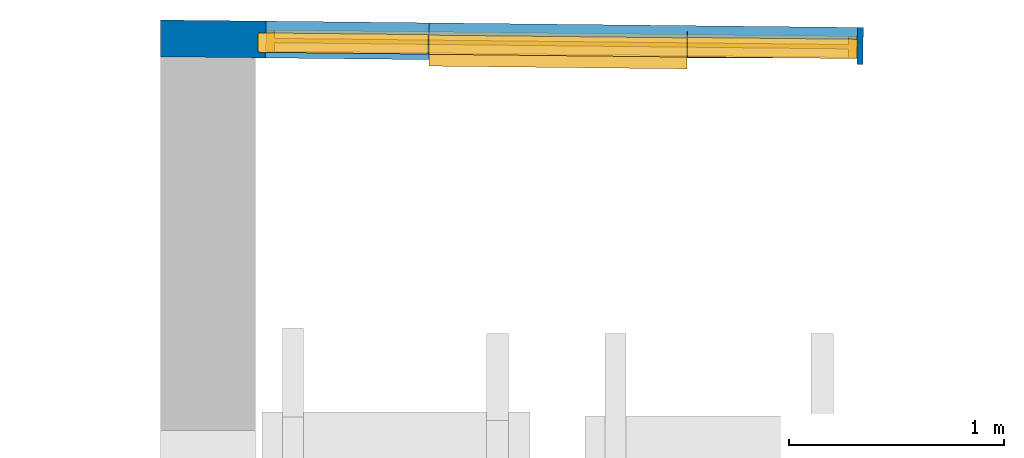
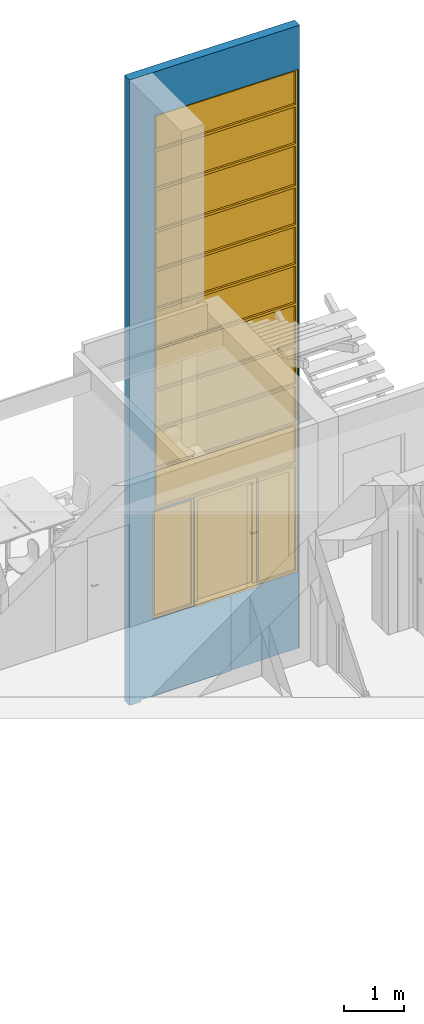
"""IFC2X3 building model written with IfcOpenShell, lengths in millimetres."""

from ifc_helpers import new_model, entity, si_unit, converted_unit, derived_unit, direction, frame, frame_2d, origin, origin_2d_with_axis, place, context, subcontext, project, spatial, polyline, rectangle, outline, extrude, faceted_brep, source, transform, mapped, material, material_list, type_object, type_shapes, element, fill, save


model = new_model("IFC2X3")

# Units and contexts
model_context = context("Model", 3, precision=0.01, world=origin(), true_north=direction((6.12303176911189e-17, 1.0)))
context_of_model = context(None, 3, precision=0.01, world=origin(), true_north=direction((6.12303176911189e-17, 1.0)))
body_context = subcontext(model_context, "Body", "Model", "MODEL_VIEW")
ifc_project = project(units=[si_unit("LENGTHUNIT", "METRE", prefix="MILLI"), si_unit("AREAUNIT", "SQUARE_METRE"), si_unit("VOLUMEUNIT", "CUBIC_METRE"), converted_unit("PLANEANGLEUNIT", "DEGREE", entity("IfcRatioMeasure", 0.0174532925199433), si_unit("PLANEANGLEUNIT", "RADIAN"), dimensions=[0, 0, 0, 0, 0, 0, 0]), si_unit("MASSUNIT", "GRAM", prefix="KILO"), derived_unit("MASSDENSITYUNIT", [(si_unit("MASSUNIT", "GRAM", prefix="KILO"), 1), (si_unit("LENGTHUNIT", "METRE"), -3)]), si_unit("TIMEUNIT", "SECOND"), si_unit("FREQUENCYUNIT", "HERTZ"), si_unit("THERMODYNAMICTEMPERATUREUNIT", "DEGREE_CELSIUS"), derived_unit("THERMALTRANSMITTANCEUNIT", [(si_unit("MASSUNIT", "GRAM", prefix="KILO"), 1), (si_unit("THERMODYNAMICTEMPERATUREUNIT", "KELVIN"), -1), (si_unit("TIMEUNIT", "SECOND"), -3)]), derived_unit("VOLUMETRICFLOWRATEUNIT", [(si_unit("LENGTHUNIT", "METRE"), 3), (si_unit("TIMEUNIT", "SECOND"), -1)]), si_unit("ELECTRICCURRENTUNIT", "AMPERE"), si_unit("ELECTRICVOLTAGEUNIT", "VOLT"), si_unit("POWERUNIT", "WATT"), si_unit("FORCEUNIT", "NEWTON", prefix="KILO"), si_unit("ILLUMINANCEUNIT", "LUX"), si_unit("LUMINOUSFLUXUNIT", "LUMEN"), si_unit("LUMINOUSINTENSITYUNIT", "CANDELA"), derived_unit("USERDEFINED", [(si_unit("MASSUNIT", "GRAM", prefix="KILO"), -1), (si_unit("LENGTHUNIT", "METRE"), -2), (si_unit("TIMEUNIT", "SECOND"), 3), (si_unit("LUMINOUSFLUXUNIT", "LUMEN"), 1)]), derived_unit("LINEARVELOCITYUNIT", [(si_unit("LENGTHUNIT", "METRE"), 1), (si_unit("TIMEUNIT", "SECOND"), -1)]), si_unit("PRESSUREUNIT", "PASCAL"), derived_unit("USERDEFINED", [(si_unit("LENGTHUNIT", "METRE"), -2), (si_unit("MASSUNIT", "GRAM", prefix="KILO"), 1), (si_unit("TIMEUNIT", "SECOND"), -2)])], contexts=[model_context, context_of_model])

# Site, building, storey
site_placement = place(None, frame((121442.264707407, 135347.995453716, -1800.0)))
site = spatial("IfcSite", under=ifc_project, at=site_placement, Name="Surface", CompositionType="ELEMENT")
building_placement = place(site_placement, origin())
building = spatial("IfcBuilding", under=site, at=building_placement, CompositionType="ELEMENT")
storey_1_placement = place(building_placement, frame((0.0, 0.0, 5125.0)))
storey_1 = spatial("IfcBuildingStorey", under=building, at=storey_1_placement, Name="2 korrus", CompositionType="ELEMENT", Elevation=5125.00000000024)

# Wall, openings
ifc_material_1 = material(Name="NCS S 2570-R Syvä punainen, matta, ruisku")
ifc_material_2 = material(Name="__Betoonelement")
ifc_material_list = material_list([ifc_material_1, ifc_material_2])
wall_type = type_object("IfcWallType", Name="Basic Wall:17_Betoon", PredefinedType="NOTDEFINED")
wall_placement = place(storey_1_placement, frame((-85759.4810968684, -112857.408717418, -6615.0), z_axis=(0.0, 0.0, 1.0), x_axis=(0.999942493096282, -0.0107242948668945, 0.0)))
wall = element("IfcWall", 1, at=wall_placement, inside=storey_1, type_object=wall_type, material=ifc_material_list, Name="Basic Wall:17_Betoon", ObjectType="Basic Wall:17_Betoon", context=body_context, shape_type="Brep", body=[
    faceted_brep([(2449.53318504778, -85.5000000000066, 3804.99360295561), (2449.53318504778, -85.5000000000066, 1605.0), (2450.78318504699, -85.4999999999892, 1605.0), (2450.78318504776, -85.5000000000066, 3804.99360295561), (3268.54498505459, 85.4999999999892, 0.0), (0.0, 85.5000000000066, 0.0), (0.0, 85.5000000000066, 12757.4620923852), (3268.54498505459, 85.4999999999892, 12757.4620923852), (490.220336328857, 85.4999999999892, 11864.9936029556), (490.220336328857, 85.4999999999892, 3804.99360295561), (1249.53318504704, 85.5000000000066, 3804.99360295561), (1249.53318504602, 85.4999999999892, 1605.0), (2449.53318504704, 85.5000000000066, 1605.0), (2449.53318504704, 85.5000000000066, 3804.99360295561), (2450.78318504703, 85.5000000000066, 3804.99360295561), (2450.78318504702, 85.5000000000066, 1605.0), (3240.78318504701, 85.4999999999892, 1605.0), (3240.78318504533, 85.4999999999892, 3805.0), (3240.22033633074, 85.5000000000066, 3804.99360295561), (3240.22033633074, 85.5000000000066, 11864.9936029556), (454.533185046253, 85.5000000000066, 3800.0), (454.533185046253, 85.5000000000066, 1600.0), (1244.53318504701, 85.5000000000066, 1600.0), (1244.53318504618, 85.4999999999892, 3800.0), (3267.94340165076, 0.0, 0.0), (225.883358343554, 0.0, 0.0), (225.044014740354, -85.5000000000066, 0.0), (1.83395988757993, -85.4999999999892, 0.0), (1.83395988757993, -85.4999999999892, 12757.4620923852), (3267.34181824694, -85.5000000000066, 12757.4620923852), (490.220336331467, -85.5000000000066, 11864.9936029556), (490.220336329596, -85.5000000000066, 3804.99360295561), (3240.22033633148, -85.5000000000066, 11864.9936029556), (3240.22033633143, 85.4999999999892, 3805.0), (3240.2203363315, -85.5000000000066, 3804.99360295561), (2449.53318504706, -64.6491256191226, 1605.0), (1249.53318504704, -85.5000000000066, 1605.0), (1951.24200368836, -85.5000000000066, 1605.0), (1951.07571434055, -69.9950379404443, 1605.0), (1249.53318504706, -85.5000000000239, 3804.99360295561), (1.83395988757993, -85.4999999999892, 1119.42804433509), (1.83395988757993, -85.4999999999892, 9470.05607262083), (3267.34181824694, -85.5000000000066, 38.7500000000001), (3267.94340165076, 0.0, 38.7500000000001), (2450.78318504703, -64.6357194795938, 1605.0), (3240.78318504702, -85.5000000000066, 3805.0), (3240.22033633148, -85.5000000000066, 3805.0), (3240.78318504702, -56.1630392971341, 1605.0), (3240.78318504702, -85.5000000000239, 1605.0), (3263.64629603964, -55.9178344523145, 1605.0), (3263.64629603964, -55.9178344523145, 38.7499999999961), (3263.96356215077, -85.5000000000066, 38.7500000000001), (3263.96356215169, -85.5000000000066, 1605.0), (1951.07571434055, -69.9950379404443, 38.7499999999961), (1951.24200368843, -85.5000000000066, 38.7499999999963), (225.044014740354, -85.5000000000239, 38.7500000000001), (225.883358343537, 0.0, 38.7500000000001), (454.533185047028, -85.5000000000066, 1600.0), (454.533185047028, -85.5000000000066, 3800.0), (1244.53318504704, -85.5000000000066, 3800.0), (1244.53318504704, -85.5000000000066, 1600.0)], [[[0, 1, 2, 3]], [[4, 5, 6, 7], [8, 9, 10, 11, 12, 13, 14, 15, 16, 17, 18, 19], [20, 21, 22, 23]], [[5, 4, 24, 25, 26, 27]], [[28, 29, 7, 6]], [[8, 30, 31, 9]], [[30, 8, 19, 32]], [[32, 19, 33, 34]], [[13, 0, 3, 14]], [[1, 0, 13, 12, 35]], [[11, 36, 37, 38, 35, 12]], [[36, 11, 10, 39]], [[5, 27, 40, 41, 28, 6]], [[7, 29, 42, 43, 24, 4]], [[3, 2, 44, 15, 14]], [[17, 45, 46, 33]], [[45, 17, 16, 47, 48]], [[16, 15, 44, 47]], [[49, 50, 51, 52]], [[53, 38, 37, 54]], [[50, 49, 47, 44, 35, 38, 53]], [[47, 49, 52, 48]], [[55, 56, 43, 42, 51, 50, 53, 54]], [[43, 56, 25, 24]], [[56, 55, 26, 25]], [[57, 21, 20, 58]], [[58, 20, 23, 59]], [[59, 23, 22, 60]], [[21, 57, 60, 22]], [[35, 44, 2, 1]], [[31, 39, 10, 9]], [[29, 28, 41, 40, 27, 26, 55, 54, 37, 36, 39, 31, 30, 32, 46, 45, 48, 52, 51, 42], [57, 58, 59, 60]]]),
])
opening_1_placement = place(wall_placement, frame((1249.53318504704, -85.5, 1605.0)))
opening_1 = element("IfcOpeningElement", 2, at=opening_1_placement, cuts=wall, Name="Concept ExtSgl:1200 x 2200mm:1", ObjectType="Opening", context=body_context, shape_type="SweptSolid", body=[
    extrude(rectangle(XDim=2200.0, YDim=1200.0, at=frame_2d((1100.0, 600.0), x_axis=(-1.0, 0.0))), frame((0.0, 0.0, 0.0), z_axis=(0.0, 1.0, 0.0), x_axis=(0.0, 0.0, 1.0)), (0.0, 0.0, 1.0), 171.0),
])
opening_2_placement = place(wall_placement, frame((490.220336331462, -85.5000000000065, 3804.99360295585)))
opening_2 = element("IfcOpeningElement", 3, at=opening_2_placement, cuts=wall, Name="Family7:Family7:1", ObjectType="Opening", context=body_context, shape_type="SweptSolid", body=[
    extrude(rectangle(XDim=8060.0, YDim=2750.0, at=frame_2d((4030.0, 1375.0), x_axis=(1.0, 0.0))), frame((0.0, 0.0, 0.0), z_axis=(0.0, 1.0, 0.0), x_axis=(0.0, 0.0, 1.0)), (0.0, 0.0, 1.0), 171.0),
])
opening_3_placement = place(wall_placement, frame((454.533185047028, -85.5000000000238, 1600.0)))
opening_3 = element("IfcOpeningElement", 4, at=opening_3_placement, cuts=wall, Name="Family8:Family8:1", ObjectType="Opening", context=body_context, shape_type="SweptSolid", body=[
    extrude(rectangle(XDim=2200.0, YDim=790.0, at=frame_2d((1100.0, 395.000000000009), x_axis=(1.0, 0.0))), frame((0.0, 0.0, 0.0), z_axis=(0.0, 1.0, 0.0), x_axis=(0.0, 0.0, 1.0)), (0.0, 0.0, 1.0), 171.0),
])
opening_4_placement = place(wall_placement, frame((2450.78318504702, -85.5000000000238, 1605.0)))
opening_4 = element("IfcOpeningElement", 5, at=opening_4_placement, cuts=wall, Name="Family8:Family8:1", ObjectType="Opening", context=body_context, shape_type="SweptSolid", body=[
    extrude(rectangle(XDim=2200.0, YDim=790.0, at=frame_2d((1100.0, 395.0), x_axis=(1.0, 0.0))), frame((0.0, 0.0, 0.0), z_axis=(0.0, 1.0, 0.0), x_axis=(0.0, 0.0, 1.0)), (0.0, 0.0, 1.0), 171.0),
])

# Storey
storey_2_placement = place(building_placement, frame((0.0, 0.0, 1800.0)))
storey_2 = spatial("IfcBuildingStorey", under=building, at=storey_2_placement, Name="1 korrus", CompositionType="ELEMENT", Elevation=1800.00000000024)

# Door
ifc_material_3 = material(Name="Concept")
door_style = type_object("IfcDoorStyle", Name="1200 x 2200mm", ConstructionType="NOTDEFINED", OperationType="SINGLE_SWING_RIGHT", ParameterTakesPrecedence=False, Sizeable=False, material=ifc_material_3)
shared_shape_1 = source(origin(), body_context, "Body", "Brep", [
    faceted_brep([(1129.5, 146.0, 54.5000000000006), (1200.0, 146.0, 54.5000000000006), (1200.0, 57.0, 54.5000000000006), (1151.5, 57.0, 54.5000000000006), (1151.5, 104.0, 54.5000000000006), (1129.5, 104.0, 54.5000000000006), (1129.5, 146.0, 2129.49999999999), (70.5000000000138, 146.0, 2129.49999999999), (70.5000000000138, 146.0, 54.5000000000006), (0.0, 146.0, 54.5000000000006), (0.0, 146.0, 2200.0), (1200.0, 146.0, 2200.0), (1200.0, 57.0, 2200.0), (0.0, 57.0, 2200.0), (0.0, 57.0, 54.5000000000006), (48.5000000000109, 57.0, 54.5000000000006), (48.5000000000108, 57.0, 2151.5), (1151.5, 57.0, 2151.5), (1151.5, 104.0, 2151.5), (48.500000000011, 104.0, 2151.5), (48.500000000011, 104.0, 54.5000000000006), (70.5000000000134, 104.0, 54.5000000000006), (70.5000000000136, 104.0, 2129.49999999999), (1129.5, 104.0, 2129.49999999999)], [[[0, 1, 2, 3, 4, 5]], [[1, 0, 6, 7, 8, 9, 10, 11]], [[2, 1, 11, 12]], [[3, 2, 12, 13, 14, 15, 16, 17]], [[4, 3, 17, 18]], [[5, 4, 18, 19, 20, 21, 22, 23]], [[0, 5, 23, 6]], [[7, 22, 21, 8]], [[8, 21, 20, 15, 14, 9]], [[13, 10, 9, 14]], [[19, 16, 15, 20]], [[12, 11, 10, 13]], [[18, 17, 16, 19]], [[6, 23, 22, 7]]]),
    faceted_brep([(1200.0, 57.0, 0.0), (1200.0, 201.0, 0.0), (1200.0, 201.0, 38.5947221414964), (1200.0, 146.0, 54.5000000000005), (1200.0, 57.0, 54.5000000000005), (0.0, 57.0, 0.0), (0.0, 57.0, 54.5000000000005), (0.0, 146.0, 54.5000000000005), (0.0, 201.0, 38.5947221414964), (0.0, 201.0, 0.0)], [[[0, 1, 2, 3, 4]], [[5, 6, 7, 8, 9]], [[1, 0, 5, 9]], [[2, 1, 9, 8]], [[3, 2, 8, 7]], [[4, 3, 7, 6]], [[0, 4, 6, 5]]]),
    faceted_brep([(1148.5, 57.0, 58.5000000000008), (1148.5, 57.0, 2148.49999999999), (50.5749705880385, 57.0, 2148.49999999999), (50.5749705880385, 57.0, 58.5000000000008), (1148.5, 101.0, 58.5000000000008), (50.5749705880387, 101.0, 58.5000000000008), (50.5749705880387, 101.0, 2148.49999999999), (1148.5, 101.0, 2148.49999999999)], [[[0, 1, 2, 3]], [[4, 5, 6, 7]], [[1, 0, 4, 7]], [[2, 1, 7, 6]], [[3, 2, 6, 5]], [[0, 3, 5, 4]]]),
])
type_shapes(door_style, [shared_shape_1])
door_placement = place(opening_1_placement, frame((1200.0, 171.0, 0.0), z_axis=(0.0, 0.0, 1.0), x_axis=(-1.0, 0.0, 0.0)))
door = element("IfcDoor", 6, at=door_placement, inside=storey_2, type_object=door_style, material=ifc_material_3, Name="Concept ExtSgl:1200 x 2200mm", ObjectType="1200 x 2200mm", OverallHeight=2200.0, OverallWidth=1200.0, context=body_context, shape_type="MappedRepresentation", body=[
    mapped(shared_shape_1, transform((0.0, 0.0, 0.0), scale=1.0)),
])

fill(opening_1, door)

# Window
ifc_material_4 = material(Name="Glass")
window_style_1 = type_object("IfcWindowStyle", Name="Family7", ConstructionType="NOTDEFINED", OperationType="NOTDEFINED", ParameterTakesPrecedence=False, Sizeable=False, material=ifc_material_4)
shared_shape_2 = source(origin(), body_context, "Body", "SweptSolid", [
    extrude(rectangle(XDim=20.0, YDim=2670.0, at=origin_2d_with_axis()), frame((1375.0, 81.0, 7340.0), z_axis=(0.0, 0.0, 1.0), x_axis=(0.0, 1.0, 0.0)), (0.0, 0.0, 1.0), 679.999999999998),
    extrude(rectangle(XDim=20.0, YDim=2670.0, at=origin_2d_with_axis()), frame((1375.0, 81.0, 40.0), z_axis=(0.0, 0.0, 1.0), x_axis=(0.0, 1.0, 0.0)), (0.0, 0.0, 1.0), 750.000000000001),
    extrude(rectangle(XDim=20.0, YDim=2670.0, at=origin_2d_with_axis()), frame((1375.0, 81.0, 6540.0), z_axis=(0.0, 0.0, 1.0), x_axis=(0.0, 1.0, 0.0)), (0.0, 0.0, 1.0), 750.000000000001),
    extrude(rectangle(XDim=20.0, YDim=2670.0, at=origin_2d_with_axis()), frame((1375.0, 81.0, 5690.0), z_axis=(0.0, 0.0, 1.0), x_axis=(0.0, 1.0, 0.0)), (0.0, 0.0, 1.0), 800.0),
    extrude(rectangle(XDim=20.0, YDim=2670.0, at=origin_2d_with_axis()), frame((1375.0, 81.0, 4890.0), z_axis=(0.0, 0.0, 1.0), x_axis=(0.0, 1.0, 0.0)), (0.0, 0.0, 1.0), 750.000000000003),
    extrude(rectangle(XDim=20.0, YDim=2670.0, at=origin_2d_with_axis()), frame((1375.0, 81.0, 4090.0), z_axis=(0.0, 0.0, 1.0), x_axis=(0.0, 1.0, 0.0)), (0.0, 0.0, 1.0), 750.000000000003),
    extrude(rectangle(XDim=20.0, YDim=2670.0, at=origin_2d_with_axis()), frame((1375.0, 81.0, 3290.0), z_axis=(0.0, 0.0, 1.0), x_axis=(0.0, 1.0, 0.0)), (0.0, 0.0, 1.0), 750.000000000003),
    extrude(rectangle(XDim=20.0, YDim=2670.0, at=origin_2d_with_axis()), frame((1375.0, 81.0, 2440.0), z_axis=(0.0, 0.0, 1.0), x_axis=(0.0, 1.0, 0.0)), (0.0, 0.0, 1.0), 800.0),
    extrude(rectangle(XDim=20.0, YDim=2670.0, at=origin_2d_with_axis()), frame((1375.0, 81.0, 1640.0), z_axis=(0.0, 0.0, 1.0), x_axis=(0.0, 1.0, 0.0)), (0.0, 0.0, 1.0), 749.999999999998),
    extrude(rectangle(XDim=20.0, YDim=2670.0, at=origin_2d_with_axis()), frame((1375.0, 81.0, 840.0), z_axis=(0.0, 0.0, 1.0), x_axis=(0.0, 1.0, 0.0)), (0.0, 0.0, 1.0), 750.000000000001),
    extrude(outline(polyline([(-1375.0, -4030.0), (1375.0, -4030.0), (1375.0, 4030.0), (-1375.0, 4030.0), (-1375.0, -4030.0)]), holes=[polyline([(1335.0, 3990.0), (1335.0, 3240.0), (-1335.0, 3240.0), (-1335.0, 3990.0), (1335.0, 3990.0)]), polyline([(1335.0, 2440.0), (-1335.0, 2440.0), (-1335.0, 3190.0), (1335.0, 3190.0), (1335.0, 2440.0)]), polyline([(-1335.0, -3310.0), (1335.0, -3310.0), (1335.0, -3990.0), (-1335.0, -3990.0), (-1335.0, -3310.0)]), polyline([(1335.0, 1640.0), (-1335.0, 1640.0), (-1335.0, 2390.0), (1335.0, 2390.0), (1335.0, 1640.0)]), polyline([(1335.0, 1590.0), (1335.0, 790.0), (-1335.0, 790.0), (-1335.0, 1590.0), (1335.0, 1590.0)]), polyline([(1335.0, -10.0), (-1335.0, -10.0), (-1335.0, 740.0), (1335.0, 740.0), (1335.0, -10.0)]), polyline([(1335.0, -810.0), (-1335.0, -810.0), (-1335.0, -60.0), (1335.0, -60.0), (1335.0, -810.0)]), polyline([(1335.0, -1610.0), (-1335.0, -1610.0), (-1335.0, -860.0), (1335.0, -860.0), (1335.0, -1610.0)]), polyline([(1335.0, -2460.0), (-1335.0, -2460.0), (-1335.0, -1660.0), (1335.0, -1660.0), (1335.0, -2460.0)]), polyline([(1335.0, -3260.0), (-1335.0, -3260.0), (-1335.0, -2510.0), (1335.0, -2510.0), (1335.0, -3260.0)])]), frame((1375.0, 31.0, 4030.0), z_axis=(0.0, 1.0, 0.0), x_axis=(1.0, 0.0, 0.0)), (0.0, 0.0, 1.0), 100.0),
])
type_shapes(window_style_1, [shared_shape_2])
window_1_placement = place(opening_2_placement, origin())
window_1 = element("IfcWindow", 7, at=window_1_placement, inside=storey_2, type_object=window_style_1, material=ifc_material_4, Name="Family7:Family7", ObjectType="Family7", OverallHeight=8060.0, OverallWidth=2750.0, context=body_context, shape_type="MappedRepresentation", body=[
    mapped(shared_shape_2, transform((0.0, 0.0, 0.0), scale=1.0)),
])

fill(opening_2, window_1)

# Storey
storey_3_placement = place(building_placement, frame((0.0, 0.0, -1490.0)))
storey_3 = spatial("IfcBuildingStorey", under=building, at=storey_3_placement, Name="Kelder", CompositionType="ELEMENT", Elevation=-1489.99999999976)

# Window
window_style_2 = type_object("IfcWindowStyle", Name="Family8", ConstructionType="NOTDEFINED", OperationType="NOTDEFINED", ParameterTakesPrecedence=False, Sizeable=False, material=ifc_material_4)
shared_shape_3 = source(origin(), body_context, "Body", "SweptSolid", [
    extrude(rectangle(XDim=20.0, YDim=710.000000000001, at=frame_2d((0.0, -5.6843418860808e-14), x_axis=(1.0, 0.0))), frame((395.0, 71.0, 40.0), z_axis=(0.0, 0.0, 1.0), x_axis=(0.0, 1.0, 0.0)), (0.0, 0.0, 1.0), 2120.0),
    extrude(outline(polyline([(-1100.0, -395.0), (1100.0, -395.0), (1100.0, 395.0), (-1100.0, 395.0), (-1100.0, -395.0)]), holes=[polyline([(1060.0, -355.0), (-1060.0, -355.0), (-1060.0, 355.0), (1060.0, 355.0), (1060.0, -355.0)])]), frame((395.0, 26.0, 1100.0), z_axis=(0.0, 1.0, 0.0), x_axis=(0.0, 0.0, -1.0)), (0.0, 0.0, 1.0), 90.0),
])
type_shapes(window_style_2, [shared_shape_3])
window_2_placement = place(opening_3_placement, origin())
window_2 = element("IfcWindow", 8, at=window_2_placement, inside=storey_3, type_object=window_style_2, material=ifc_material_4, Name="Family8:Family8", ObjectType="Family8", OverallHeight=2200.0, OverallWidth=790.0, context=body_context, shape_type="MappedRepresentation", body=[
    mapped(shared_shape_3, transform((0.0, 0.0, 0.0), scale=1.0)),
])

fill(opening_3, window_2)

window_3_placement = place(opening_4_placement, origin())
window_3 = element("IfcWindow", 9, at=window_3_placement, inside=storey_3, type_object=window_style_2, material=ifc_material_4, Name="Family8:Family8", ObjectType="Family8", OverallHeight=2200.0, OverallWidth=790.0, context=body_context, shape_type="MappedRepresentation", body=[
    mapped(shared_shape_3, transform((0.0, 0.0, 0.0), scale=1.0)),
])

fill(opening_4, window_3)

save(model, "model.ifc")
